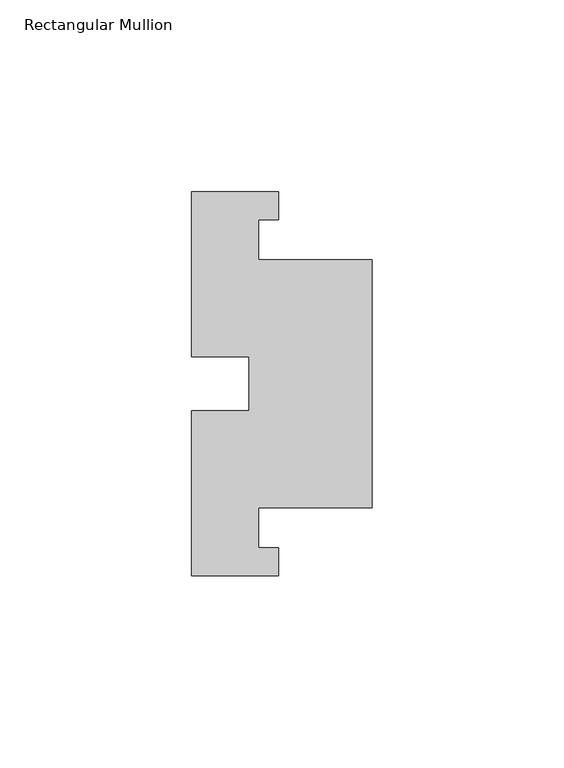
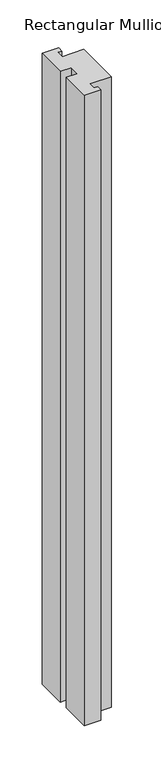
"""IFC4 building model written with IfcOpenShell, lengths in millimetres: member geometry, Rectangular Mullion : Trim-Horizontal-Teknion-Focus-FWCB."""

from ifc_helpers import new_model, si_unit, frame, origin, place, context, project, spatial, polyline, outline, extrude, source, transform, mapped, element, save


def rectangular_mullion_0b3d91d6(model_context):
    return source(origin(), model_context, "Body", "SweptSolid", [
        extrude(outline(polyline([(-24.399989, 49.9999985), (-24.399989, 42.725), (-29.499989, 42.725), (-29.499989, 32.3000006), (0.0, 32.3000006), (0.0, -32.3000006), (-29.499989, -32.3000006), (-29.499989, -42.725), (-24.399989, -42.725), (-24.399989, -49.9999985), (-46.9999974, -49.9999985), (-46.9999974, -6.9999975), (-31.999989, -6.9999975), (-31.999989, 6.9999975), (-46.9999974, 6.9999975), (-46.9999974, 49.9999985), (-24.399989, 49.9999985)])), frame((0.0, 0.0, -914.4), z_axis=(0.0, 0.0, 1.0), x_axis=(1.0, 0.0, 0.0)), (0.0, 0.0, 1.0), 914.4),
    ])


if __name__ == "__main__":
    model = new_model("IFC4")
    model_context = context("Model", 3, world=origin())
    ifc_project = project(units=[si_unit("LENGTHUNIT", "METRE", prefix="MILLI")], contexts=[model_context])
    site = spatial("IfcSite", under=ifc_project)
    building = spatial("IfcBuilding", under=site)
    placement = place(None, origin())
    rectangular_mullion_shape = rectangular_mullion_0b3d91d6(model_context)
    element("IfcMember", 1, ObjectType="Rectangular Mullion : Trim-Horizontal-Teknion-Focus-FWCB", at=placement, inside=building, context=model_context, shape_type="MappedRepresentation", body=[
        mapped(rectangular_mullion_shape, transform((0.0, 0.0, 0.0), x_axis=(1.0, 0.0, 0.0), y_axis=(0.0, 1.0, 0.0), z_axis=(0.0, 0.0, 1.0))),
    ])
    save(model, "model.ifc")
